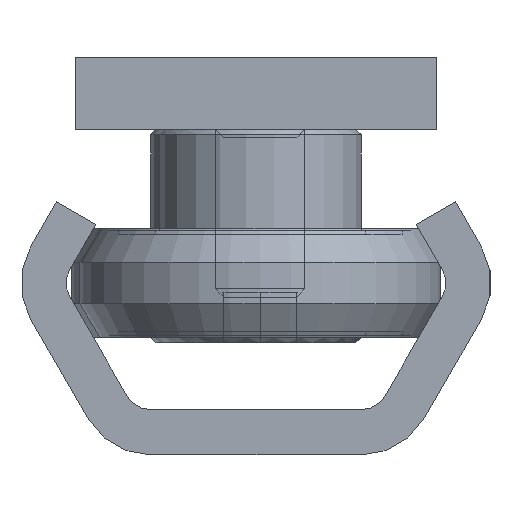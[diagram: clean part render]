
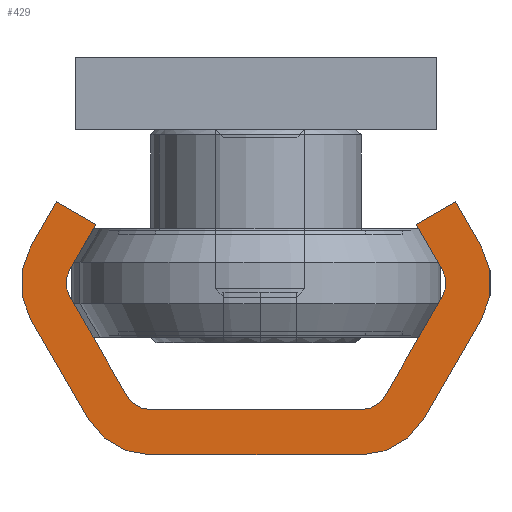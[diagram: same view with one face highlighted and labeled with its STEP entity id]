
A CAD part, left-side view. The second image highlights one B-rep face of the part: STEP entity #429.
In plain terms, the highlighted planar face has unit normal (-1, 0, 0).
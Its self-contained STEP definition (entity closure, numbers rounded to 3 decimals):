
#429 = ADVANCED_FACE( '', ( #951 ), #952, .F. );
#951 = FACE_OUTER_BOUND( '', #1827, .T. );
#952 = PLANE( '', #1828 );
#1827 = EDGE_LOOP( '', ( #2980, #2981, #2982, #2983, #2984, #2985, #2986, #2987, #2988, #2989, #2990, #2991, #2992, #2993, #2994, #2995, #2996, #2997, #2998, #2999 ) );
#1828 = AXIS2_PLACEMENT_3D( '', #3000, #3001, #3002 );
#2980 = ORIENTED_EDGE( '', *, *, #4356, .F. );
#2981 = ORIENTED_EDGE( '', *, *, #4357, .F. );
#2982 = ORIENTED_EDGE( '', *, *, #4358, .F. );
#2983 = ORIENTED_EDGE( '', *, *, #4359, .F. );
#2984 = ORIENTED_EDGE( '', *, *, #4360, .F. );
#2985 = ORIENTED_EDGE( '', *, *, #4361, .F. );
#2986 = ORIENTED_EDGE( '', *, *, #4362, .F. );
#2987 = ORIENTED_EDGE( '', *, *, #4226, .T. );
#2988 = ORIENTED_EDGE( '', *, *, #4363, .F. );
#2989 = ORIENTED_EDGE( '', *, *, #4364, .T. );
#2990 = ORIENTED_EDGE( '', *, *, #4365, .F. );
#2991 = ORIENTED_EDGE( '', *, *, #4366, .T. );
#2992 = ORIENTED_EDGE( '', *, *, #4367, .F. );
#2993 = ORIENTED_EDGE( '', *, *, #4368, .T. );
#2994 = ORIENTED_EDGE( '', *, *, #4369, .F. );
#2995 = ORIENTED_EDGE( '', *, *, #4243, .F. );
#2996 = ORIENTED_EDGE( '', *, *, #4370, .F. );
#2997 = ORIENTED_EDGE( '', *, *, #4371, .F. );
#2998 = ORIENTED_EDGE( '', *, *, #4372, .F. );
#2999 = ORIENTED_EDGE( '', *, *, #4373, .F. );
#3000 = CARTESIAN_POINT( '', ( 0., -5.825, -4. ) );
#3001 = DIRECTION( '', ( 1., 0., 0. ) );
#3002 = DIRECTION( '', ( 0., 0., -1. ) );
#4226 = EDGE_CURVE( '', #4817, #4818, #4819, .T. );
#4243 = EDGE_CURVE( '', #4844, #4845, #4846, .T. );
#4356 = EDGE_CURVE( '', #5030, #5031, #5032, .T. );
#4357 = EDGE_CURVE( '', #5033, #5030, #5034, .T. );
#4358 = EDGE_CURVE( '', #5035, #5033, #5036, .T. );
#4359 = EDGE_CURVE( '', #5037, #5035, #5038, .T. );
#4360 = EDGE_CURVE( '', #5039, #5037, #5040, .T. );
#4361 = EDGE_CURVE( '', #5041, #5039, #5042, .T. );
#4362 = EDGE_CURVE( '', #4817, #5041, #5043, .T. );
#4363 = EDGE_CURVE( '', #5044, #4818, #5045, .T. );
#4364 = EDGE_CURVE( '', #5044, #5046, #5047, .T. );
#4365 = EDGE_CURVE( '', #5048, #5046, #5049, .T. );
#4366 = EDGE_CURVE( '', #5048, #5050, #5051, .T. );
#4367 = EDGE_CURVE( '', #5052, #5050, #5053, .T. );
#4368 = EDGE_CURVE( '', #5052, #5054, #5055, .T. );
#4369 = EDGE_CURVE( '', #4845, #5054, #5056, .T. );
#4370 = EDGE_CURVE( '', #5057, #4844, #5058, .T. );
#4371 = EDGE_CURVE( '', #5059, #5057, #5060, .T. );
#4372 = EDGE_CURVE( '', #5061, #5059, #5062, .T. );
#4373 = EDGE_CURVE( '', #5031, #5061, #5063, .T. );
#4817 = VERTEX_POINT( '', #5676 );
#4818 = VERTEX_POINT( '', #5677 );
#4819 = CIRCLE( '', #5678, 1.5 );
#4844 = VERTEX_POINT( '', #5706 );
#4845 = VERTEX_POINT( '', #5707 );
#4846 = LINE( '', #5708, #5709 );
#5030 = VERTEX_POINT( '', #5919 );
#5031 = VERTEX_POINT( '', #5920 );
#5032 = LINE( '', #5921, #5922 );
#5033 = VERTEX_POINT( '', #5923 );
#5034 = CIRCLE( '', #5924, 4. );
#5035 = VERTEX_POINT( '', #5925 );
#5036 = LINE( '', #5926, #5927 );
#5037 = VERTEX_POINT( '', #5928 );
#5038 = CIRCLE( '', #5929, 4. );
#5039 = VERTEX_POINT( '', #5930 );
#5040 = LINE( '', #5931, #5932 );
#5041 = VERTEX_POINT( '', #5933 );
#5042 = LINE( '', #5934, #5935 );
#5043 = LINE( '', #5936, #5937 );
#5044 = VERTEX_POINT( '', #5938 );
#5045 = LINE( '', #5939, #5940 );
#5046 = VERTEX_POINT( '', #5941 );
#5047 = CIRCLE( '', #5942, 1.5 );
#5048 = VERTEX_POINT( '', #5943 );
#5049 = LINE( '', #5944, #5945 );
#5050 = VERTEX_POINT( '', #5946 );
#5051 = CIRCLE( '', #5947, 1.5 );
#5052 = VERTEX_POINT( '', #5948 );
#5053 = LINE( '', #5949, #5950 );
#5054 = VERTEX_POINT( '', #5951 );
#5055 = CIRCLE( '', #5952, 1.5 );
#5056 = LINE( '', #5953, #5954 );
#5057 = VERTEX_POINT( '', #5955 );
#5058 = LINE( '', #5956, #5957 );
#5059 = VERTEX_POINT( '', #5958 );
#5060 = CIRCLE( '', #5959, 4. );
#5061 = VERTEX_POINT( '', #5960 );
#5062 = LINE( '', #5961, #5962 );
#5063 = CIRCLE( '', #5963, 4. );
#5676 = CARTESIAN_POINT( '', ( 0., 10.299, -10.25 ) );
#5677 = CARTESIAN_POINT( '', ( 0., 10.299, -8.75 ) );
#5678 = AXIS2_PLACEMENT_3D( '', #6672, #6673, #6674 );
#5706 = CARTESIAN_POINT( '', ( 0., -11.021, -14. ) );
#5707 = CARTESIAN_POINT( '', ( 0., -8.856, -12.75 ) );
#5708 = CARTESIAN_POINT( '', ( 0., -11.021, -14. ) );
#5709 = VECTOR( '', #6699, 1000. );
#5919 = CARTESIAN_POINT( '', ( 0., 5.825, 0. ) );
#5920 = CARTESIAN_POINT( '', ( 0., -5.825, 0. ) );
#5921 = CARTESIAN_POINT( '', ( 0., 5.825, 0. ) );
#5922 = VECTOR( '', #6900, 1000. );
#5923 = CARTESIAN_POINT( '', ( 0., 9.289, -2. ) );
#5924 = AXIS2_PLACEMENT_3D( '', #6901, #6902, #6903 );
#5925 = CARTESIAN_POINT( '', ( 0., 12.464, -7.5 ) );
#5926 = CARTESIAN_POINT( '', ( 0., 12.464, -7.5 ) );
#5927 = VECTOR( '', #6904, 1000. );
#5928 = CARTESIAN_POINT( '', ( 0., 12.464, -11.5 ) );
#5929 = AXIS2_PLACEMENT_3D( '', #6905, #6906, #6907 );
#5930 = CARTESIAN_POINT( '', ( 0., 11.021, -14. ) );
#5931 = CARTESIAN_POINT( '', ( 0., 11.021, -14. ) );
#5932 = VECTOR( '', #6908, 1000. );
#5933 = CARTESIAN_POINT( '', ( 0., 8.856, -12.75 ) );
#5934 = CARTESIAN_POINT( '', ( 0., 8.856, -12.75 ) );
#5935 = VECTOR( '', #6909, 1000. );
#5936 = CARTESIAN_POINT( '', ( 0., 10.299, -10.25 ) );
#5937 = VECTOR( '', #6910, 1000. );
#5938 = CARTESIAN_POINT( '', ( 0., 7.124, -3.25 ) );
#5939 = CARTESIAN_POINT( '', ( 0., 7.124, -3.25 ) );
#5940 = VECTOR( '', #6911, 1000. );
#5941 = CARTESIAN_POINT( '', ( 0., 5.825, -2.5 ) );
#5942 = AXIS2_PLACEMENT_3D( '', #6912, #6913, #6914 );
#5943 = CARTESIAN_POINT( '', ( 0., -5.825, -2.5 ) );
#5944 = CARTESIAN_POINT( '', ( 0., -5.825, -2.5 ) );
#5945 = VECTOR( '', #6915, 1000. );
#5946 = CARTESIAN_POINT( '', ( 0., -7.124, -3.25 ) );
#5947 = AXIS2_PLACEMENT_3D( '', #6916, #6917, #6918 );
#5948 = CARTESIAN_POINT( '', ( 0., -10.299, -8.75 ) );
#5949 = CARTESIAN_POINT( '', ( 0., -10.299, -8.75 ) );
#5950 = VECTOR( '', #6919, 1000. );
#5951 = CARTESIAN_POINT( '', ( 0., -10.299, -10.25 ) );
#5952 = AXIS2_PLACEMENT_3D( '', #6920, #6921, #6922 );
#5953 = CARTESIAN_POINT( '', ( 0., -8.856, -12.75 ) );
#5954 = VECTOR( '', #6923, 1000. );
#5955 = CARTESIAN_POINT( '', ( 0., -12.464, -11.5 ) );
#5956 = CARTESIAN_POINT( '', ( 0., -12.464, -11.5 ) );
#5957 = VECTOR( '', #6924, 1000. );
#5958 = CARTESIAN_POINT( '', ( 0., -12.464, -7.5 ) );
#5959 = AXIS2_PLACEMENT_3D( '', #6925, #6926, #6927 );
#5960 = CARTESIAN_POINT( '', ( 0., -9.289, -2. ) );
#5961 = CARTESIAN_POINT( '', ( 0., -9.289, -2. ) );
#5962 = VECTOR( '', #6928, 1000. );
#5963 = AXIS2_PLACEMENT_3D( '', #6929, #6930, #6931 );
#6672 = CARTESIAN_POINT( '', ( 0., 9., -9.5 ) );
#6673 = DIRECTION( '', ( 1., 0., 0. ) );
#6674 = DIRECTION( '', ( 0., 0., -1. ) );
#6699 = DIRECTION( '', ( 0., 0.866, 0.5 ) );
#6900 = DIRECTION( '', ( 0., -1., 0. ) );
#6901 = CARTESIAN_POINT( '', ( 0., 5.825, -4. ) );
#6902 = DIRECTION( '', ( 1., 0., 0. ) );
#6903 = DIRECTION( '', ( 0., 0., -1. ) );
#6904 = DIRECTION( '', ( 0., -0.5, 0.866 ) );
#6905 = CARTESIAN_POINT( '', ( 0., 9., -9.5 ) );
#6906 = DIRECTION( '', ( 1., 0., 0. ) );
#6907 = DIRECTION( '', ( 0., 0., -1. ) );
#6908 = DIRECTION( '', ( 0., 0.5, 0.866 ) );
#6909 = DIRECTION( '', ( 0., 0.866, -0.5 ) );
#6910 = DIRECTION( '', ( 0., -0.5, -0.866 ) );
#6911 = DIRECTION( '', ( 0., 0.5, -0.866 ) );
#6912 = CARTESIAN_POINT( '', ( 0., 5.825, -4. ) );
#6913 = DIRECTION( '', ( 1., 0., 0. ) );
#6914 = DIRECTION( '', ( 0., 0., -1. ) );
#6915 = DIRECTION( '', ( 0., 1., 0. ) );
#6916 = CARTESIAN_POINT( '', ( 0., -5.825, -4. ) );
#6917 = DIRECTION( '', ( 1., 0., 0. ) );
#6918 = DIRECTION( '', ( 0., 0., -1. ) );
#6919 = DIRECTION( '', ( 0., 0.5, 0.866 ) );
#6920 = CARTESIAN_POINT( '', ( 0., -9., -9.5 ) );
#6921 = DIRECTION( '', ( 1., 0., 0. ) );
#6922 = DIRECTION( '', ( 0., 0., -1. ) );
#6923 = DIRECTION( '', ( 0., -0.5, 0.866 ) );
#6924 = DIRECTION( '', ( 0., 0.5, -0.866 ) );
#6925 = CARTESIAN_POINT( '', ( 0., -9., -9.5 ) );
#6926 = DIRECTION( '', ( 1., 0., 0. ) );
#6927 = DIRECTION( '', ( 0., 0., -1. ) );
#6928 = DIRECTION( '', ( 0., -0.5, -0.866 ) );
#6929 = CARTESIAN_POINT( '', ( 0., -5.825, -4. ) );
#6930 = DIRECTION( '', ( 1., 0., 0. ) );
#6931 = DIRECTION( '', ( 0., 0., -1. ) );
